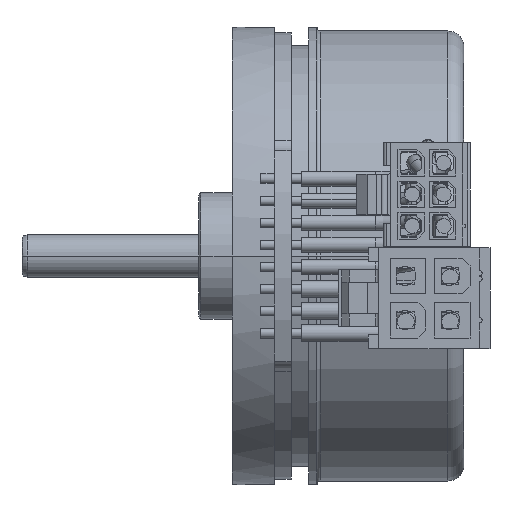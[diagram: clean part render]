
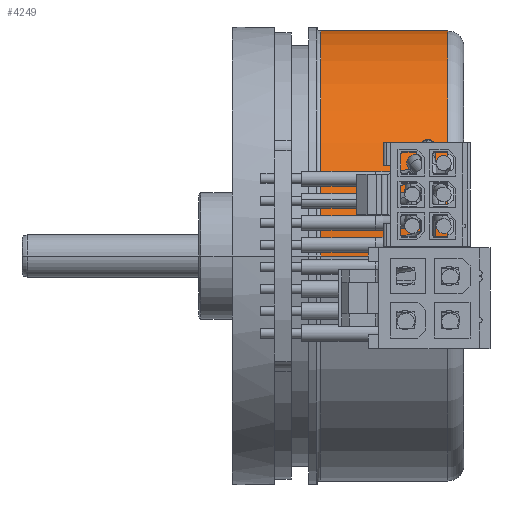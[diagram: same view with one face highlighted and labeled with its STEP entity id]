
A CAD part, front view. The second image highlights one B-rep face of the part: STEP entity #4249.
In plain terms, the highlighted cylindrical face has radius 21.4 mm (diameter 42.8 mm), a partial arc.
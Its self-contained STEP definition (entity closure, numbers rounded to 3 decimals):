
#758=CARTESIAN_POINT('',(20.5,0.,0.));
#759=DIRECTION('',(-1.,0.,0.));
#760=DIRECTION('',(0.,-1.,0.));
#761=AXIS2_PLACEMENT_3D('',#758,#759,#760);
#766=DIRECTION('',(1.,0.,0.));
#767=VECTOR('',#766,12.1);
#768=CARTESIAN_POINT('',(8.4,21.4,0.));
#769=LINE('',#768,#767);
#773=DIRECTION('',(1.,0.,0.));
#774=VECTOR('',#773,12.1);
#775=CARTESIAN_POINT('',(8.4,-21.4,0.));
#776=LINE('',#775,#774);
#804=CARTESIAN_POINT('',(8.4,0.,0.));
#805=DIRECTION('',(1.,0.,0.));
#806=DIRECTION('',(0.,1.,0.));
#807=AXIS2_PLACEMENT_3D('',#804,#805,#806);
#3557=CARTESIAN_POINT('',(20.5,21.4,0.));
#3558=VERTEX_POINT('',#3557);
#3559=CARTESIAN_POINT('',(20.5,-21.4,0.));
#3560=VERTEX_POINT('',#3559);
#3561=CARTESIAN_POINT('',(8.4,21.4,0.));
#3562=VERTEX_POINT('',#3561);
#3563=CARTESIAN_POINT('',(8.4,-21.4,0.));
#3564=VERTEX_POINT('',#3563);
#4235=CARTESIAN_POINT('',(0.,0.,0.));
#4236=DIRECTION('',(1.,0.,0.));
#4237=DIRECTION('',(0.,-1.,0.));
#4238=AXIS2_PLACEMENT_3D('',#4235,#4236,#4237);
#4239=CYLINDRICAL_SURFACE('',#4238,21.4);
#4241=ORIENTED_EDGE('',*,*,#4240,.T.);
#4242=ORIENTED_EDGE('',*,*,#4223,.F.);
#4244=ORIENTED_EDGE('',*,*,#4243,.F.);
#4246=ORIENTED_EDGE('',*,*,#4245,.F.);
#4247=EDGE_LOOP('',(#4241,#4242,#4244,#4246));
#4248=FACE_OUTER_BOUND('',#4247,.F.);
#4249=ADVANCED_FACE('',(#4248),#4239,.T.);
#762=CIRCLE('',#761,21.4);
#808=CIRCLE('',#807,21.4);
#4223=EDGE_CURVE('',#3560,#3558,#762,.T.);
#4240=EDGE_CURVE('',#3562,#3558,#769,.T.);
#4243=EDGE_CURVE('',#3564,#3560,#776,.T.);
#4245=EDGE_CURVE('',#3562,#3564,#808,.T.);
